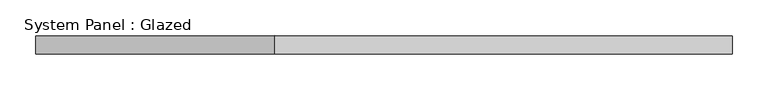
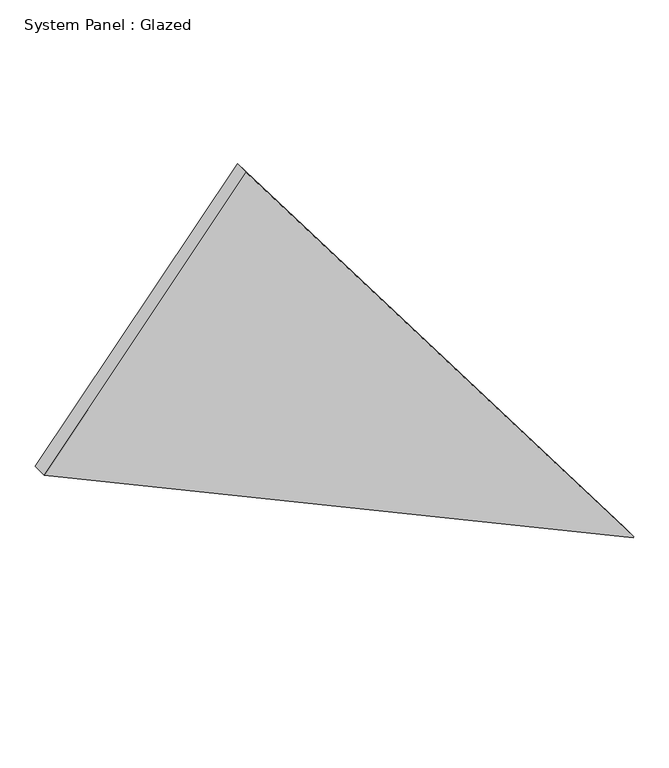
"""IFC4 building model written with IfcOpenShell, lengths in millimetres: plate geometry, System Panel : Glazed."""

from ifc_helpers import new_model, si_unit, frame, origin, place, context, project, spatial, polyline, outline, extrude, source, transform, mapped, element, save


def system_panel_glazed_e228eff2(model_context):
    return source(origin(), model_context, "Body", "SweptSolid", [
        extrude(outline(polyline([(0.0, 482.6555752), (0.9760249, 483.4480507), (854.8038706, -151.8849292), (446.4457073, -483.4480507), (0.0, 482.6555752)])), frame((0.0, -44.45, 0.0), z_axis=(0.0, 1.0, 0.0), x_axis=(0.0, 0.0, 1.0)), (0.0, 0.0, 1.0), 25.4),
    ])


if __name__ == "__main__":
    model = new_model("IFC4")
    model_context = context("Model", 3, world=origin())
    ifc_project = project(units=[si_unit("LENGTHUNIT", "METRE", prefix="MILLI")], contexts=[model_context])
    site = spatial("IfcSite", under=ifc_project)
    building = spatial("IfcBuilding", under=site)
    placement = place(None, origin())
    system_panel_glazed_shape = system_panel_glazed_e228eff2(model_context)
    element("IfcPlate", 1, ObjectType="System Panel : Glazed", at=placement, inside=building, context=model_context, shape_type="MappedRepresentation", body=[
        mapped(system_panel_glazed_shape, transform((0.0, 0.0, 0.0), x_axis=(1.0, 0.0, 0.0), y_axis=(0.0, 1.0, 0.0), z_axis=(0.0, 0.0, 1.0))),
    ])
    save(model, "model.ifc")
